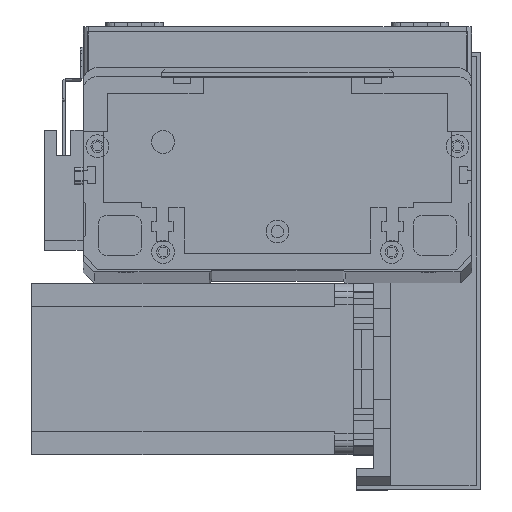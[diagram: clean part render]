
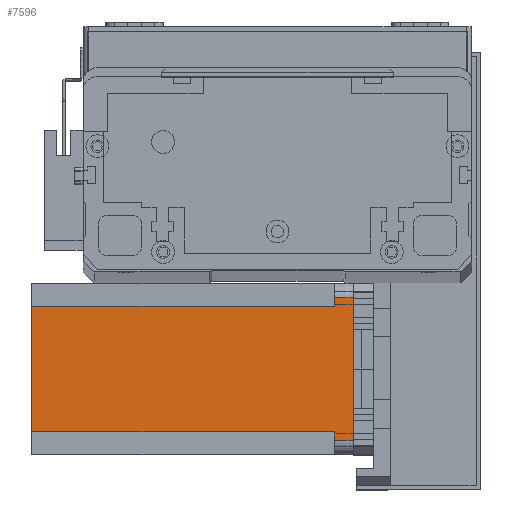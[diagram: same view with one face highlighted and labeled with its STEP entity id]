
A CAD part, top view. The second image highlights one B-rep face of the part: STEP entity #7596.
In plain terms, the highlighted planar face has unit normal (0, 0, 1) as drawn and (0, -1, 0) by its records, which use the part's own axes.
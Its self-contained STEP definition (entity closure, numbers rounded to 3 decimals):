
#420 = LINE ( 'NONE', #21950, #12456 ) ;
#1083 = ORIENTED_EDGE ( 'NONE', *, *, #30361, .T. ) ;
#2414 = VECTOR ( 'NONE', #4929, 1000. ) ;
#2515 = CARTESIAN_POINT ( 'NONE',  ( 8., 0., -6.5 ) ) ;
#2801 = ORIENTED_EDGE ( 'NONE', *, *, #21736, .F. ) ;
#2886 = EDGE_CURVE ( 'NONE', #14486, #15812, #27296, .T. ) ;
#3015 = ORIENTED_EDGE ( 'NONE', *, *, #3105, .F. ) ;
#3105 = EDGE_CURVE ( 'NONE', #29319, #12041, #13951, .T. ) ;
#3185 = LINE ( 'NONE', #2515, #2414 ) ;
#4929 = DIRECTION ( 'NONE',  ( -1., 0., 0. ) ) ;
#6519 = PLANE ( 'NONE',  #29331 ) ;
#6906 = DIRECTION ( 'NONE',  ( 0., 0., 1. ) ) ;
#7371 = CARTESIAN_POINT ( 'NONE',  ( 52., 0., -6.5 ) ) ;
#7583 = VECTOR ( 'NONE', #6906, 1000. ) ;
#7596 = ADVANCED_FACE ( 'NONE', ( #8892 ), #6519, .T. ) ;
#8138 = CARTESIAN_POINT ( 'NONE',  ( 5., 0., 0. ) ) ;
#8293 = CARTESIAN_POINT ( 'NONE',  ( 8., 0., -112.5 ) ) ;
#8774 = VECTOR ( 'NONE', #15327, 1000. ) ;
#8800 = LINE ( 'NONE', #17909, #20540 ) ;
#8892 = FACE_OUTER_BOUND ( 'NONE', #28615, .T. ) ;
#8911 = DIRECTION ( 'NONE',  ( 1., 0., 0. ) ) ;
#10664 = VECTOR ( 'NONE', #15150, 1000. ) ;
#11923 = VERTEX_POINT ( 'NONE', #23946 ) ;
#12001 = VERTEX_POINT ( 'NONE', #17268 ) ;
#12041 = VERTEX_POINT ( 'NONE', #19782 ) ;
#12456 = VECTOR ( 'NONE', #15107, 1000. ) ;
#12746 = ORIENTED_EDGE ( 'NONE', *, *, #2886, .T. ) ;
#12768 = CARTESIAN_POINT ( 'NONE',  ( 0., 0., 0. ) ) ;
#13342 = DIRECTION ( 'NONE',  ( 0., 0., -1. ) ) ;
#13635 = EDGE_CURVE ( 'NONE', #14486, #12001, #17121, .T. ) ;
#13760 = DIRECTION ( 'NONE',  ( 0., 0., -1. ) ) ;
#13951 = LINE ( 'NONE', #8293, #7583 ) ;
#14349 = VERTEX_POINT ( 'NONE', #8138 ) ;
#14486 = VERTEX_POINT ( 'NONE', #20346 ) ;
#14918 = ORIENTED_EDGE ( 'NONE', *, *, #16872, .T. ) ;
#15059 = DIRECTION ( 'NONE',  ( 0., 0., -1. ) ) ;
#15107 = DIRECTION ( 'NONE',  ( 1., 0., 0. ) ) ;
#15150 = DIRECTION ( 'NONE',  ( 1., 0., 0. ) ) ;
#15327 = DIRECTION ( 'NONE',  ( 0., 0., 1. ) ) ;
#15812 = VERTEX_POINT ( 'NONE', #30379 ) ;
#16342 = CARTESIAN_POINT ( 'NONE',  ( 8., 0., -112.5 ) ) ;
#16872 = EDGE_CURVE ( 'NONE', #15812, #11923, #21233, .T. ) ;
#16896 = LINE ( 'NONE', #12768, #10664 ) ;
#17121 = LINE ( 'NONE', #28841, #17846 ) ;
#17268 = CARTESIAN_POINT ( 'NONE',  ( 52., 0., -112.5 ) ) ;
#17846 = VECTOR ( 'NONE', #15059, 1000. ) ;
#17909 = CARTESIAN_POINT ( 'NONE',  ( 5., 0., -112.5 ) ) ;
#18348 = ORIENTED_EDGE ( 'NONE', *, *, #22823, .F. ) ;
#19023 = CARTESIAN_POINT ( 'NONE',  ( 5., 0., -6.5 ) ) ;
#19782 = CARTESIAN_POINT ( 'NONE',  ( 8., 0., -6.5 ) ) ;
#20195 = EDGE_CURVE ( 'NONE', #29319, #12001, #420, .T. ) ;
#20346 = CARTESIAN_POINT ( 'NONE',  ( 52., 0., -6.5 ) ) ;
#20467 = VECTOR ( 'NONE', #8911, 1000. ) ;
#20540 = VECTOR ( 'NONE', #13342, 1000. ) ;
#21233 = LINE ( 'NONE', #24731, #8774 ) ;
#21736 = EDGE_CURVE ( 'NONE', #12041, #30040, #3185, .T. ) ;
#21950 = CARTESIAN_POINT ( 'NONE',  ( 0., 0., -112.5 ) ) ;
#22823 = EDGE_CURVE ( 'NONE', #14349, #11923, #16896, .T. ) ;
#22845 = CARTESIAN_POINT ( 'NONE',  ( 0., 0., -112.5 ) ) ;
#23808 = ORIENTED_EDGE ( 'NONE', *, *, #13635, .F. ) ;
#23946 = CARTESIAN_POINT ( 'NONE',  ( 55., 0., 0. ) ) ;
#24731 = CARTESIAN_POINT ( 'NONE',  ( 55., 0., -112.5 ) ) ;
#25108 = ORIENTED_EDGE ( 'NONE', *, *, #20195, .T. ) ;
#27296 = LINE ( 'NONE', #7371, #20467 ) ;
#27538 = DIRECTION ( 'NONE',  ( 0., -1., 0. ) ) ;
#28615 = EDGE_LOOP ( 'NONE', ( #12746, #14918, #18348, #1083, #2801, #3015, #25108, #23808 ) ) ;
#28841 = CARTESIAN_POINT ( 'NONE',  ( 52., 0., -112.5 ) ) ;
#29319 = VERTEX_POINT ( 'NONE', #16342 ) ;
#29331 = AXIS2_PLACEMENT_3D ( 'NONE', #22845, #27538, #13760 ) ;
#30040 = VERTEX_POINT ( 'NONE', #19023 ) ;
#30361 = EDGE_CURVE ( 'NONE', #14349, #30040, #8800, .T. ) ;
#30379 = CARTESIAN_POINT ( 'NONE',  ( 55., 0., -6.5 ) ) ;
